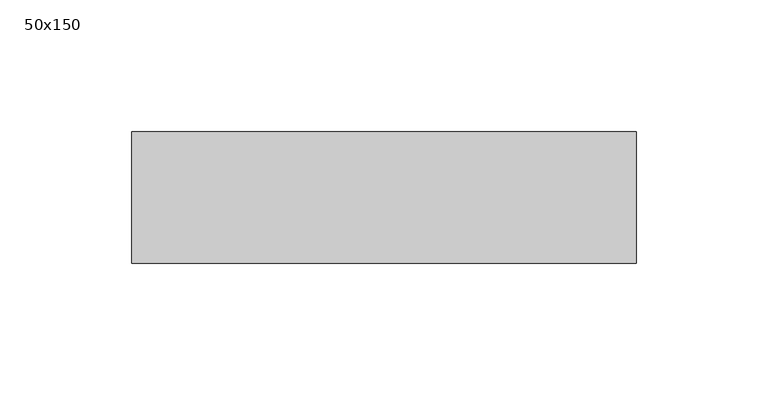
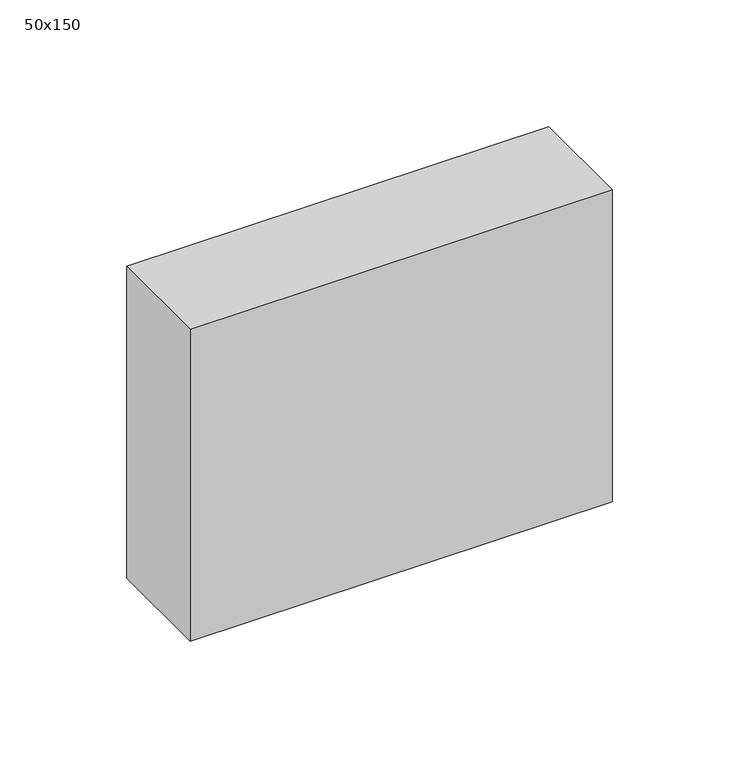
"""IFC4 building model written with IfcOpenShell, lengths in millimetres: beam geometry, Graded Timber : 50x150."""

from ifc_helpers import new_model, si_unit, frame, origin, place, context, project, spatial, polyline, outline, extrude, source, transform, mapped, element, save


def beam_50x150_4e307baa(model_context):
    return source(origin(), model_context, "Body", "SweptSolid", [
        extrude(outline(polyline([(96.0, 25.0), (96.0, -25.0), (-96.0, -25.0), (-96.0, 25.0), (96.0, 25.0)])), frame((0.0, 0.0, -75.0), z_axis=(0.0, 0.0, 1.0), x_axis=(1.0, 0.0, 0.0)), (0.0, 0.0, 1.0), 150.0),
    ])


if __name__ == "__main__":
    model = new_model("IFC4")
    model_context = context("Model", 3, world=origin())
    ifc_project = project(units=[si_unit("LENGTHUNIT", "METRE", prefix="MILLI")], contexts=[model_context])
    site = spatial("IfcSite", under=ifc_project)
    building = spatial("IfcBuilding", under=site)
    placement = place(None, origin())
    beam_50x150_shape = beam_50x150_4e307baa(model_context)
    element("IfcBeam", 1, ObjectType="Graded Timber : 50x150", at=placement, inside=building, context=model_context, shape_type="MappedRepresentation", body=[
        mapped(beam_50x150_shape, transform((0.0, 0.0, 0.0), x_axis=(1.0, 0.0, 0.0), y_axis=(0.0, 1.0, 0.0), z_axis=(0.0, 0.0, 1.0))),
    ])
    save(model, "model.ifc")
